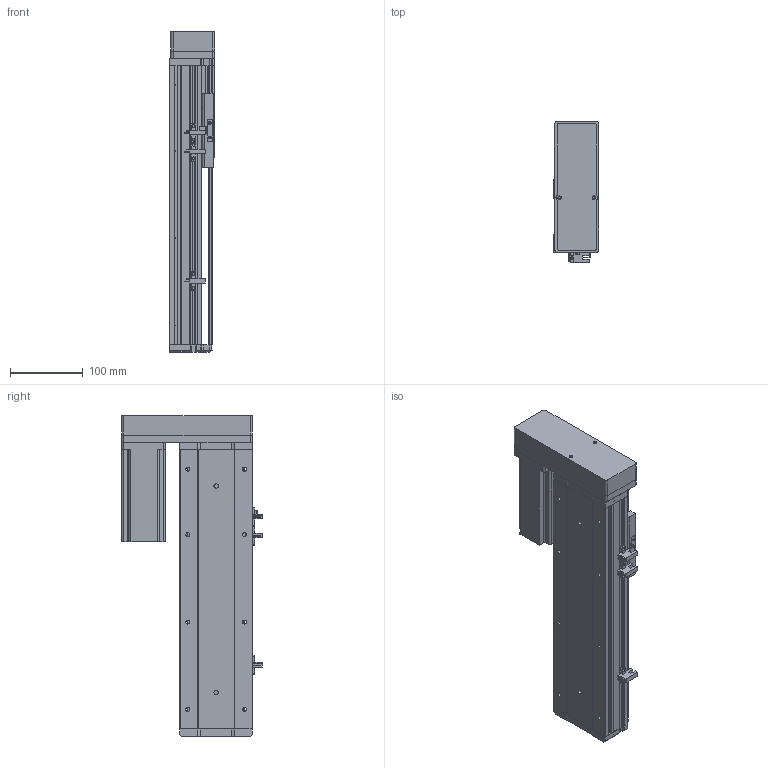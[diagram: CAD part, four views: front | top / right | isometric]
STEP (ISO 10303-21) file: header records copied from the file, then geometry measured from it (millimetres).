
FILE_DESCRIPTION (( 'STEP AP214' ), '1' );
FILE_NAME ('KSD100S-S200-ML-CM.STEP', '2019-08-30T05:53:54', ( '微软用户' ), ( '微软中国' ), 'SwSTEP 2.0', 'SolidWorks 2014', '' );
FILE_SCHEMA (( 'AUTOMOTIVE_DESIGN' ));
Length unit declared in the file: millimetre
Products named in the file (11): U倰嫖萇EEㄜSX672; 覜茼え100遵圉猾敕; 100宽防尘板丝杆200行程; 100遵鎮湛假蚾啣; 100宽滚珠螺姆安装板半封闭; 100遵傷啣; 100宽底板半封闭丝杆200行程; KSD100S-S200-ML-CM; 悵誘欶酘衵殏; 台达ECMA－C20604AS伺服电机; 100宽马达安装板连板左右折丝杆
Assembly tree (12 placements, depth 2):
  KSD100S-S200-ML-CM
    100宽底板半封闭丝杆200行程
    100遵傷啣
    100宽滚珠螺姆安装板半封闭
    100遵鎮湛假蚾啣
    100宽防尘板丝杆200行程
    覜茼え100遵圉猾敕
    U倰嫖萇EEㄜSX672  x3
    100宽马达安装板连板左右折丝杆
    台达ECMA－C20604AS伺服电机
    悵誘欶酘衵殏
Bounding box: 62 x 193.7 x 440.5 mm (x, y, z)
Volume: 1483332 mm3; surface area: 438181.2 mm2
Topology: 13 solids, 13 shells, 1115 faces, 3122 edges, 2001 vertices
Faces by surface type: cylinder 528, plane 492, cone 95
Entity records: 37371 total; most frequent: CARTESIAN_POINT 6681, DIRECTION 5185, ORIENTED_EDGE 4960, EDGE_CURVE 2480, AXIS2_PLACEMENT_3D 1869, VERTEX_POINT 1625, VECTOR 1447, LINE 1447
